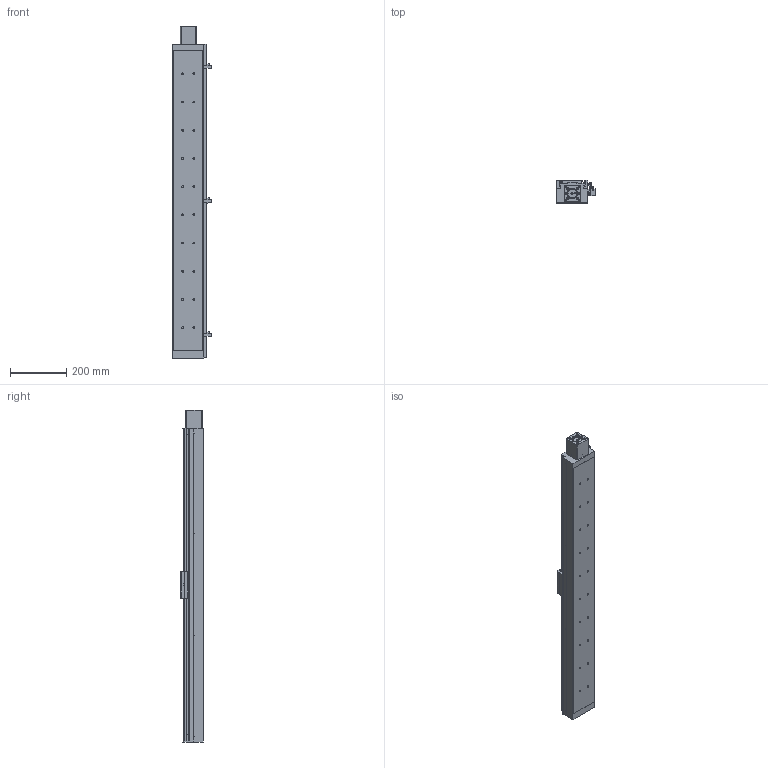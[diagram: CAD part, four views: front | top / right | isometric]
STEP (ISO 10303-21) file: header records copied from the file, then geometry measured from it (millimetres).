
FILE_DESCRIPTION((''),'2;1');
FILE_NAME('E:\libraries\UIA actuator library 2009\standard actuator\UIA110R12(15)DC\UIA110R12(15)DC-ball screw dia.16\UIA110R12(15)DC-_ _ _-R16_ _ step file 20Apr16\UIA110R12(15)DC-950-R16_ _-M23-P13-C10-S.stp','2016-04-20T17:22:14',('h029'),(''),'Autodesk Inventor 11','Autodesk Inventor 11','');
FILE_SCHEMA(('AUTOMOTIVE_DESIGN { 1 0 10303 214 1 1 1 1 }'));
Length unit declared in the file: millimetre
Products named in the file (10): UIA110R12(15)DC-950, ball screw dia.16; body, UIA110R12(15)DC-950, ball screw dia.16; Carriage, UIA110R12(15)DC; Sen Switch, UIA110R12(15)DC; sensor rail, UIA110R12(15)DC-950; SOH-32C; SOH-32C-3; SOH-32C-1; SOH-32C-2; M23 motor mount
Assembly tree (9 placements, depth 3):
  UIA110R12(15)DC-950, ball screw dia.16
    body, UIA110R12(15)DC-950, ball screw dia.16
    Carriage, UIA110R12(15)DC
    Sen Switch, UIA110R12(15)DC
    sensor rail, UIA110R12(15)DC-950
    SOH-32C
      SOH-32C-3
      SOH-32C-1
      SOH-32C-2
    M23 motor mount
Bounding box: 136.5 x 81 x 1177 mm (x, y, z)
Volume: 8397764 mm3; surface area: 646663.7 mm2
Topology: 8 solids, 8 shells, 661 faces, 1752 edges, 1149 vertices
Faces by surface type: plane 419, cylinder 140, bspline 83, cone 19
Full cylindrical faces by diameter (mm): 2.459 x4, 3.242 x4, 4 x6, 4.5 x4, 5.5 x3, 6.35 x1, 6.5 x20, 7.5 x4, 8 x2, 9.5 x6, 10 x1, 10.5 x20, 21 x1, 32 x3, 37 x1, 38.1 x1, 42 x1, 42.01 x1, 43.5 x1
Entity records: 20900 total; most frequent: CARTESIAN_POINT 5235, DIRECTION 3159, ORIENTED_EDGE 3002, EDGE_CURVE 1501, AXIS2_PLACEMENT_3D 1078, VERTEX_POINT 1072, VECTOR 1003, LINE 1003
